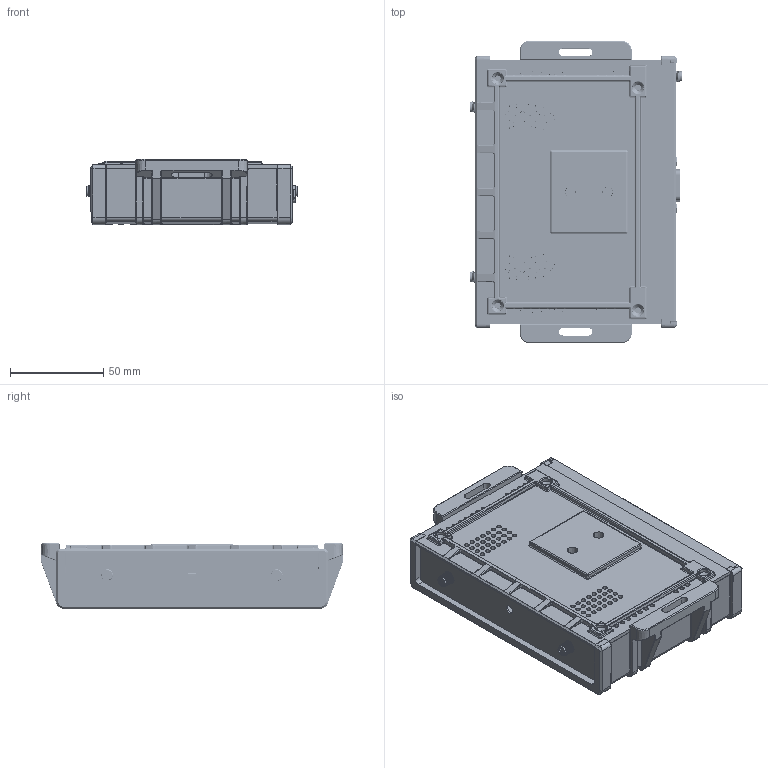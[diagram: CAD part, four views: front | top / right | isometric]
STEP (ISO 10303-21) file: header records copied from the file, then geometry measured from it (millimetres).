
FILE_DESCRIPTION (( 'STEP AP203' ), '1' );
FILE_NAME ('STEP FILE_IX20 - ENCLOSURE ASSEMBLY_2020.07.29.STEP', '2020-07-28T12:25:11', ( '' ), ( '' ), 'SwSTEP 2.0', 'SolidWorks 2020', '' );
FILE_SCHEMA (( 'CONFIG_CONTROL_DESIGN' ));
Length unit declared in the file: millimetre
Products named in the file (14): IX20 - PCB 1_2020.07.29; IX20 - LEDS_2020.07.29; IX20 - BASE_2020.07.29; IX20 - MAIN PCB_2020.07.29; IX20 - FRONT PLATE and LEDS_2020.07.29; IX20 - LID and H SINK 2_2020.07.29; IX20 - FRONT PLATE_2020.07.29; STEP FILE_IX20 - ENCLOSURE ASSEMBLY_2020.07.29; IX20 - HEAT SINK 1_2020.07.29; IX20 - HEAT SINK 2_2020.07.29; IX20 - BASE and H SINK 1_2020.07.29; IX20 - MODULE and PCB_2020.07.29; IX20 - LID_2020.07.29; IX20 - REAR CONNECTOR PLATE_2020.07.29
Assembly tree (13 placements, depth 3):
  STEP FILE_IX20 - ENCLOSURE ASSEMBLY_2020.07.29
    IX20 - MAIN PCB_2020.07.29
    IX20 - LID and H SINK 2_2020.07.29
      IX20 - LID_2020.07.29
      IX20 - HEAT SINK 1_2020.07.29
    IX20 - BASE and H SINK 1_2020.07.29
      IX20 - BASE_2020.07.29
      IX20 - HEAT SINK 2_2020.07.29
    IX20 - FRONT PLATE and LEDS_2020.07.29
      IX20 - FRONT PLATE_2020.07.29
      IX20 - LEDS_2020.07.29
    IX20 - REAR CONNECTOR PLATE_2020.07.29
    IX20 - MODULE and PCB_2020.07.29
      IX20 - PCB 1_2020.07.29
Bounding box: 113.42 x 162 x 35 mm (x, y, z)
Volume: 136185.8 mm3; surface area: 178360.7 mm2
Topology: 25 solids, 28 shells, 5268 faces, 13291 edges, 8167 vertices
Faces by surface type: plane 2420, cylinder 1511, bspline 677, cone 360, sphere 197, torus 103
Entity records: 178134 total; most frequent: CARTESIAN_POINT 55835, ORIENTED_EDGE 26436, DIRECTION 23718, EDGE_CURVE 13218, VERTEX_POINT 8161, LINE 7912, VECTOR 7912, AXIS2_PLACEMENT_3D 7903
